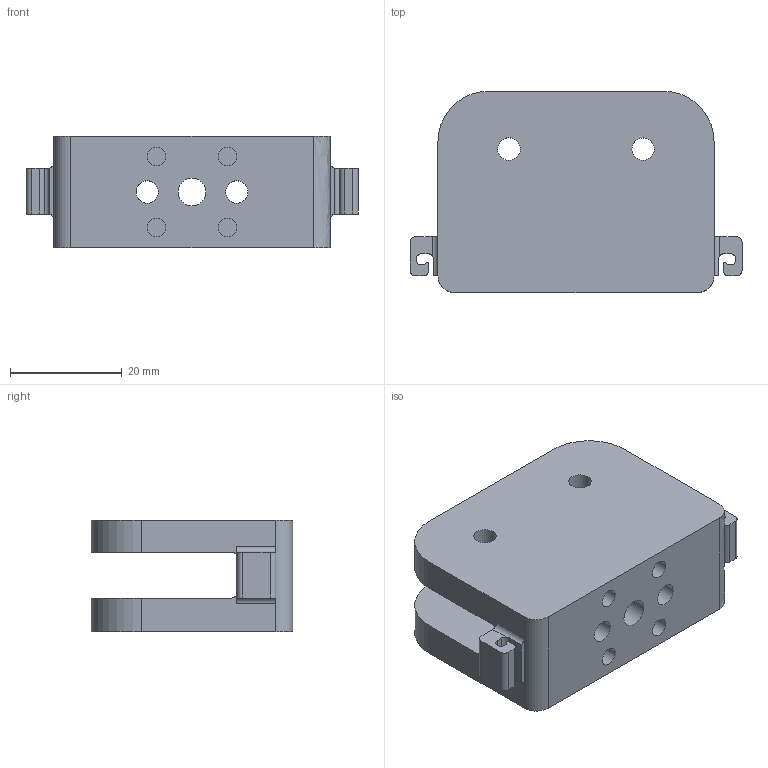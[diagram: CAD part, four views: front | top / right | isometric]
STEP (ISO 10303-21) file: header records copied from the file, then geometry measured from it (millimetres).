
FILE_DESCRIPTION( ('This file contains a STEP AP42 implementation' ,'as created by ZW3D STEP Interface translator.') ,'2;1' );
FILE_NAME( 'Palm.stp' ,'24 9 3.133441', (''), ('ZWCAD Software Co.'), 'Version 1.0', 'ZW3D to STEP translator', '' );
FILE_SCHEMA(('AUTOMOTIVE_DESIGN { 1 0 10303 214 1 1 1 1 }'));
Length unit declared in the file: millimetre
Products named in the file (2): 0; Palm
Bounding box: 59.37 x 36 x 20 mm (x, y, z)
Volume: 23836 mm3; surface area: 10024.2 mm2
Topology: 1 solids, 1 shells, 79 faces, 209 edges, 138 vertices
Faces by surface type: plane 44, cylinder 32, bspline 3
Full cylindrical faces by diameter (mm): 3.3 x4, 4 x4, 4.058 x2, 5 x1
Entity records: 2737 total; most frequent: CARTESIAN_POINT 602, ORIENTED_EDGE 418, DIRECTION 417, EDGE_CURVE 209, AXIS2_PLACEMENT_3D 141, VERTEX_POINT 138, VECTOR 135, LINE 135
